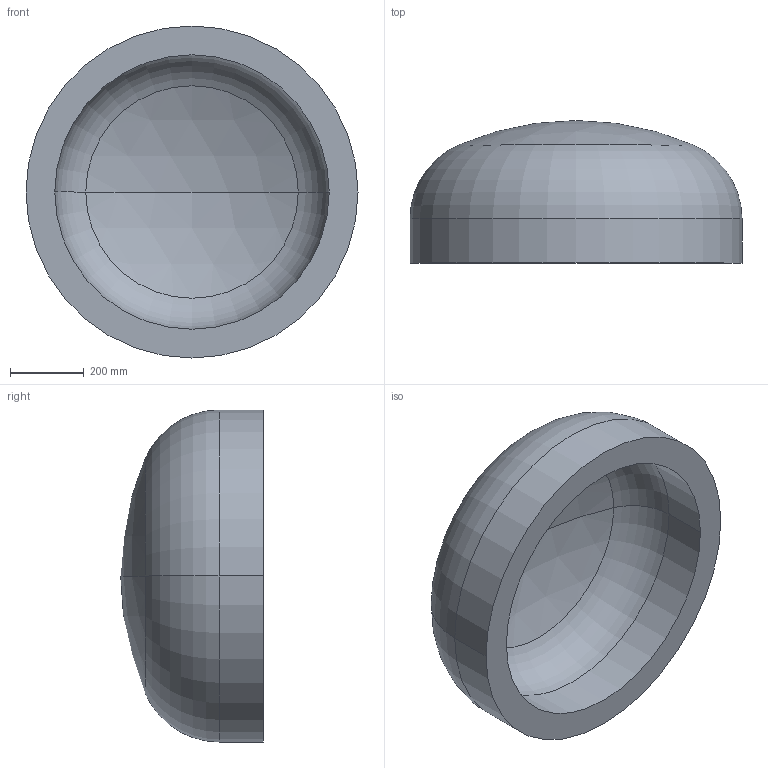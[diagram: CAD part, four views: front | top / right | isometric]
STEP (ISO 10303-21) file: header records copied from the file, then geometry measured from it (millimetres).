
FILE_DESCRIPTION (( 'STEP AP203' ), '1' );
FILE_NAME ('DIN 28013 Korbbogenform_-_Boden DIN 28013 - 900 x 120 - I - s=78.step', '2016-07-01T08:36:09', ( '' ), ( '' ), 'SwSTEP 2.0', 'SolidWorks 2013', '' );
FILE_SCHEMA (( 'CONFIG_CONTROL_DESIGN' ));
Length unit declared in the file: millimetre
Products named in the file (1): DIN 28013 Korbbogenform_-_Boden DIN 28013 - 900 x 120 - I - s=78
Bounding box: 900 x 386.42 x 900 mm (x, y, z)
Volume: 85976036.7 mm3; surface area: 2418682.1 mm2
Topology: 1 solids, 1 shells, 13 faces, 24 edges, 14 vertices
Faces by surface type: torus 4, cylinder 4, sphere 4, plane 1
Entity records: 407 total; most frequent: DIRECTION 72, CARTESIAN_POINT 52, ORIENTED_EDGE 48, AXIS2_PLACEMENT_3D 34, EDGE_CURVE 24, CIRCLE 20, EDGE_LOOP 14, VERTEX_POINT 14
